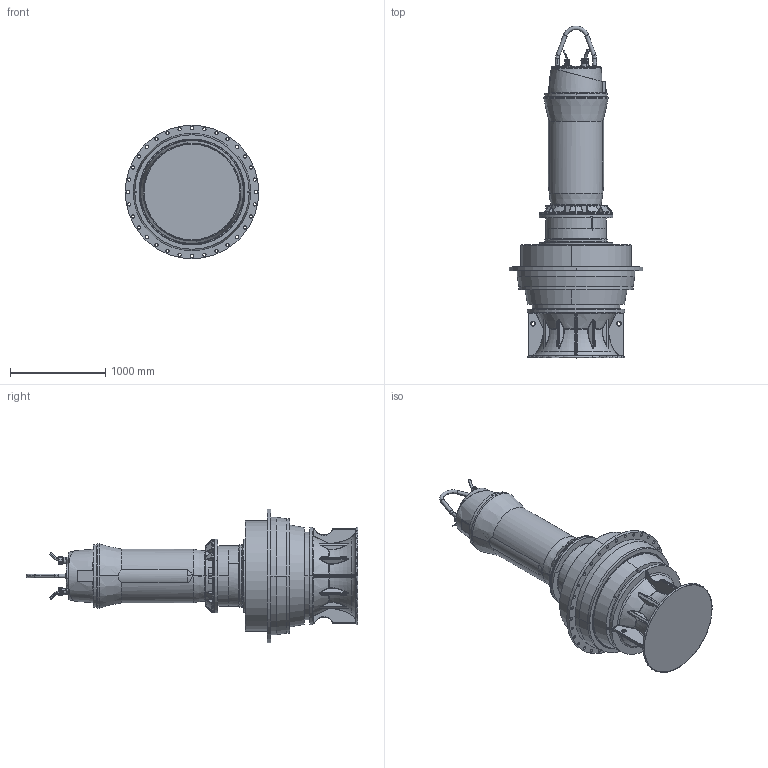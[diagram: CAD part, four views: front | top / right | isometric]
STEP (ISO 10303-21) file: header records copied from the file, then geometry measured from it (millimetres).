
FILE_DESCRIPTION (( 'STEP AP214' ), '1' );
FILE_NAME ('PE7_AFLX1203G3_DIN_A.STEP', '2017-05-11T07:15:08', ( '' ), ( '' ), 'SwSTEP 2.0', 'SolidWorks 2017', '' );
FILE_SCHEMA (( 'AUTOMOTIVE_DESIGN' ));
Length unit declared in the file: millimetre
Products named in the file (1): PE7_AFLX1203G3_DIN_A
Bounding box: 1400 x 3480 x 1400 mm (x, y, z)
Volume: 1464698574.8 mm3; surface area: 14428753.5 mm2
Topology: 4 solids, 29 shells, 3053 faces, 7366 edges, 4241 vertices
Faces by surface type: bspline 894, plane 690, cylinder 650, torus 383, cone 317, sphere 119
Entity records: 168426 total; most frequent: CARTESIAN_POINT 71018, ORIENTED_EDGE 14308, DIRECTION 12029, EDGE_CURVE 7154, AXIS2_PLACEMENT_3D 4981, VERTEX_POINT 4240, EDGE_LOOP 3262, UNCERTAINTY_MEASURE_WITH_UNIT 3059
